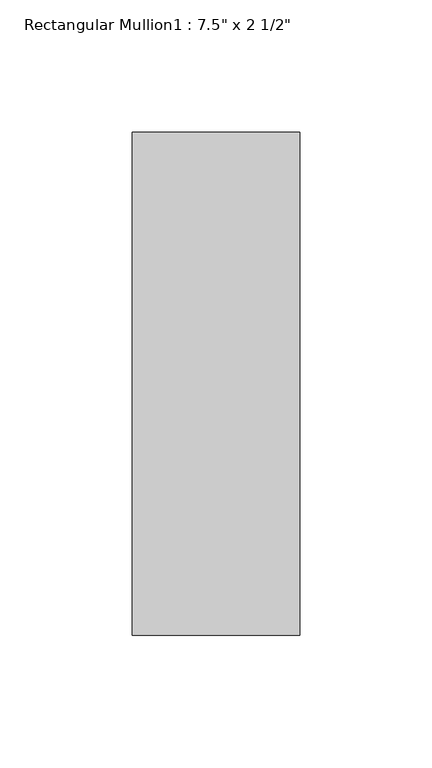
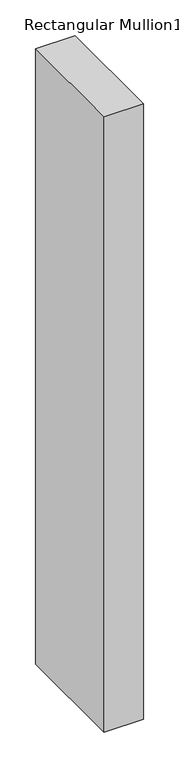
"""IFC4 building model written with IfcOpenShell, lengths in millimetres: member geometry."""

from ifc_helpers import new_model, si_unit, frame, origin, place, context, project, spatial, polyline, outline, extrude, source, transform, mapped, element, save


def member_a34c4784(model_context):
    return source(origin(), model_context, "Body", "SweptSolid", [
        extrude(outline(polyline([(-63.5, -165.1), (-63.5, 25.4), (0.0, 25.4), (0.0, -165.1), (-63.5, -165.1)])), frame((0.0, 0.0, -1047.75), z_axis=(0.0, 0.0, 1.0), x_axis=(1.0, 0.0, 0.0)), (0.0, 0.0, 1.0), 1047.75),
    ])


if __name__ == "__main__":
    model = new_model("IFC4")
    model_context = context("Model", 3, world=origin())
    ifc_project = project(units=[si_unit("LENGTHUNIT", "METRE", prefix="MILLI")], contexts=[model_context])
    site = spatial("IfcSite", under=ifc_project)
    building = spatial("IfcBuilding", under=site)
    placement = place(None, origin())
    member_shape = member_a34c4784(model_context)
    element("IfcMember", 1, ObjectType="Rectangular Mullion1 : 7.5\" x 2 1/2\"", at=placement, inside=building, context=model_context, shape_type="MappedRepresentation", body=[
        mapped(member_shape, transform((0.0, 0.0, 0.0), x_axis=(1.0, 0.0, 0.0), y_axis=(0.0, 1.0, 0.0), z_axis=(0.0, 0.0, 1.0))),
    ])
    save(model, "model.ifc")
